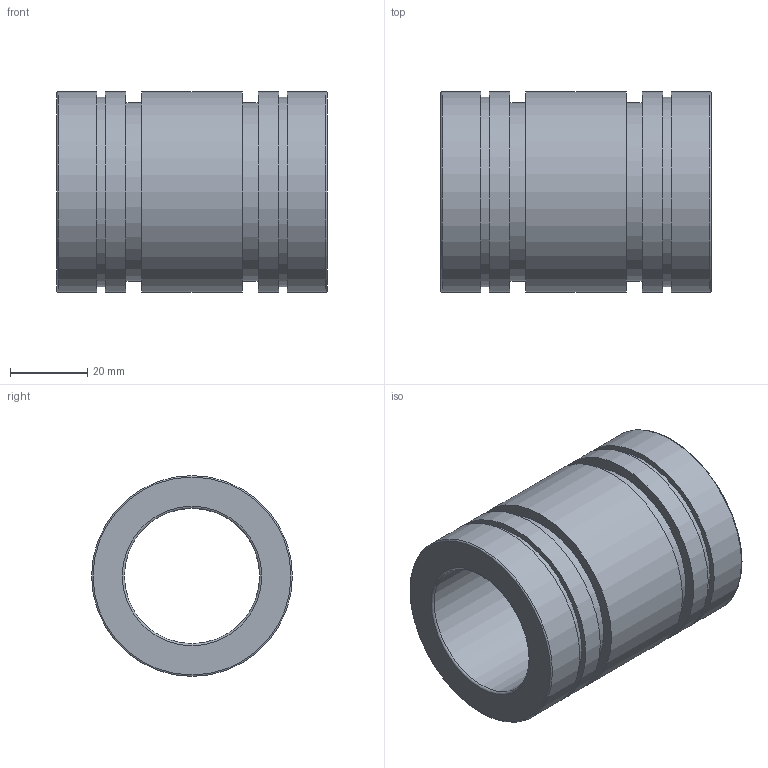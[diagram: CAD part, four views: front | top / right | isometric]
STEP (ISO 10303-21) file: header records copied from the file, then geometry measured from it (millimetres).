
FILE_DESCRIPTION(('STEP AP203'),'1');
FILE_NAME('//192.168.1.1/share/s-4 技術開発/s-4-4_CAD/s-4-4-3_見直し済み/PBC LINEAR修正済み/3D途中/FJ/FJ35.step','2022-03-24T06:52:55',(' '),(' '),'Spatial InterOp 3D',' ',' ');
FILE_SCHEMA(('CONFIG_CONTROL_DESIGN'));
Length unit declared in the file: millimetre
Products named in the file (1): 1
Bounding box: 70 x 52 x 52 mm (x, y, z)
Volume: 76558.7 mm3; surface area: 23899.4 mm2
Topology: 1 solids, 1 shells, 24 faces, 38 edges, 24 vertices
Faces by surface type: cylinder 10, plane 10, torus 4
Full cylindrical faces by diameter (mm): 35 x1, 46.2 x2, 49 x2, 52 x5
Entity records: 532 total; most frequent: DIRECTION 98, CARTESIAN_POINT 73, AXIS2_PLACEMENT_3D 49, EDGE_LOOP 48, ORIENTED_EDGE 48, FACE_OUTER_BOUND 38, ADVANCED_FACE 24, EDGE_CURVE 24
